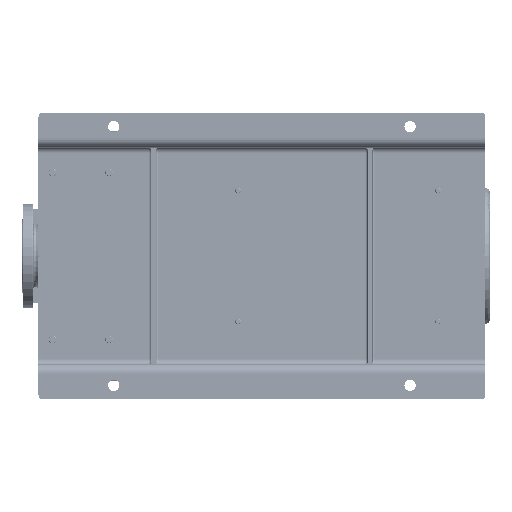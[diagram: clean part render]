
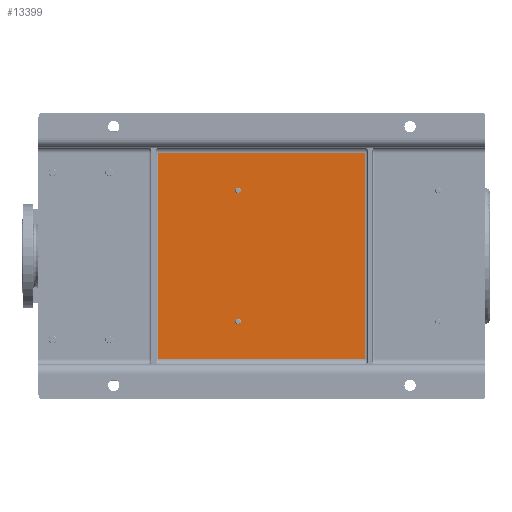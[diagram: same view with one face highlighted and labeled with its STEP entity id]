
A CAD part, front view. The second image highlights one B-rep face of the part: STEP entity #13399.
In plain terms, the highlighted planar face has unit normal (0, -1, 0).
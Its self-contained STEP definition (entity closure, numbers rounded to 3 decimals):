
#5833 = VERTEX_POINT ( 'NONE', #56796 ) ;
#5977 = EDGE_CURVE ( 'NONE', #167025, #117056, #17941, .T. ) ;
#7355 = CIRCLE ( 'NONE', #57080, 6. ) ;
#10897 = DIRECTION ( 'NONE',  ( 0., 0., -1. ) ) ;
#11101 = LINE ( 'NONE', #166468, #81732 ) ;
#12062 = VECTOR ( 'NONE', #154597, 1000. ) ;
#13399 = ADVANCED_FACE ( 'NONE', ( #164339, #223935, #45274 ), #227774, .T. ) ;
#17941 = LINE ( 'NONE', #218572, #162607 ) ;
#20562 = VERTEX_POINT ( 'NONE', #85366 ) ;
#21911 = EDGE_LOOP ( 'NONE', ( #108849, #250946, #155795, #102794 ) ) ;
#29899 = VERTEX_POINT ( 'NONE', #117404 ) ;
#30684 = VECTOR ( 'NONE', #32805, 1000. ) ;
#32805 = DIRECTION ( 'NONE',  ( 1., 0., 0. ) ) ;
#39292 = VERTEX_POINT ( 'NONE', #137901 ) ;
#42880 = DIRECTION ( 'NONE',  ( 0., 1., 0. ) ) ;
#44142 = DIRECTION ( 'NONE',  ( 0., 0., -1. ) ) ;
#45274 = FACE_OUTER_BOUND ( 'NONE', #21911, .T. ) ;
#56796 = CARTESIAN_POINT ( 'NONE',  ( 444.5, 65., -418. ) ) ;
#56918 = AXIS2_PLACEMENT_3D ( 'NONE', #186216, #85279, #142279 ) ;
#57080 = AXIS2_PLACEMENT_3D ( 'NONE', #191870, #42880, #44142 ) ;
#61735 = ORIENTED_EDGE ( 'NONE', *, *, #160504, .T. ) ;
#63179 = DIRECTION ( 'NONE',  ( 0., 0., 1. ) ) ;
#64833 = LINE ( 'NONE', #143774, #12062 ) ;
#77823 = ORIENTED_EDGE ( 'NONE', *, *, #88210, .T. ) ;
#79501 = CARTESIAN_POINT ( 'NONE',  ( 525., 65., -695. ) ) ;
#81732 = VECTOR ( 'NONE', #248068, 1000. ) ;
#85279 = DIRECTION ( 'NONE',  ( 0., 1., 0. ) ) ;
#85337 = ORIENTED_EDGE ( 'NONE', *, *, #200769, .T. ) ;
#85366 = CARTESIAN_POINT ( 'NONE',  ( 444.5, 65., -430. ) ) ;
#86667 = CARTESIAN_POINT ( 'NONE',  ( 75., 65., -950. ) ) ;
#88210 = EDGE_CURVE ( 'NONE', #20562, #5833, #153114, .T. ) ;
#102794 = ORIENTED_EDGE ( 'NONE', *, *, #195038, .T. ) ;
#108849 = ORIENTED_EDGE ( 'NONE', *, *, #222265, .T. ) ;
#114304 = LINE ( 'NONE', #131153, #30684 ) ;
#117056 = VERTEX_POINT ( 'NONE', #245487 ) ;
#117404 = CARTESIAN_POINT ( 'NONE',  ( 165.5, 65., -418. ) ) ;
#129956 = CARTESIAN_POINT ( 'NONE',  ( 165.5, 65., -424. ) ) ;
#131153 = CARTESIAN_POINT ( 'NONE',  ( 75., 65., -695. ) ) ;
#135871 = AXIS2_PLACEMENT_3D ( 'NONE', #86667, #222665, #186324 ) ;
#137901 = CARTESIAN_POINT ( 'NONE',  ( 85., 65., -695. ) ) ;
#142279 = DIRECTION ( 'NONE',  ( 0., 0., 1. ) ) ;
#143774 = CARTESIAN_POINT ( 'NONE',  ( 85., 65., -700. ) ) ;
#149299 = DIRECTION ( 'NONE',  ( 0., 1., 0. ) ) ;
#151911 = DIRECTION ( 'NONE',  ( 0., 1., 0. ) ) ;
#153114 = CIRCLE ( 'NONE', #186210, 6. ) ;
#154597 = DIRECTION ( 'NONE',  ( 0., 0., -1. ) ) ;
#155795 = ORIENTED_EDGE ( 'NONE', *, *, #5977, .T. ) ;
#156139 = CIRCLE ( 'NONE', #56918, 6. ) ;
#157094 = AXIS2_PLACEMENT_3D ( 'NONE', #129956, #151911, #10897 ) ;
#160312 = ORIENTED_EDGE ( 'NONE', *, *, #174923, .T. ) ;
#160504 = EDGE_CURVE ( 'NONE', #29899, #228877, #7355, .T. ) ;
#162607 = VECTOR ( 'NONE', #63179, 1000. ) ;
#164339 = FACE_BOUND ( 'NONE', #235969, .T. ) ;
#166468 = CARTESIAN_POINT ( 'NONE',  ( 75., 65., -255. ) ) ;
#167025 = VERTEX_POINT ( 'NONE', #79501 ) ;
#168697 = CARTESIAN_POINT ( 'NONE',  ( 444.5, 65., -424. ) ) ;
#174923 = EDGE_CURVE ( 'NONE', #5833, #20562, #156139, .T. ) ;
#179041 = VERTEX_POINT ( 'NONE', #196078 ) ;
#186210 = AXIS2_PLACEMENT_3D ( 'NONE', #168697, #149299, #190687 ) ;
#186216 = CARTESIAN_POINT ( 'NONE',  ( 444.5, 65., -424. ) ) ;
#186324 = DIRECTION ( 'NONE',  ( 0., 0., -1. ) ) ;
#188907 = EDGE_LOOP ( 'NONE', ( #160312, #77823 ) ) ;
#190687 = DIRECTION ( 'NONE',  ( 0., 0., 1. ) ) ;
#191870 = CARTESIAN_POINT ( 'NONE',  ( 165.5, 65., -424. ) ) ;
#195038 = EDGE_CURVE ( 'NONE', #117056, #179041, #11101, .T. ) ;
#196078 = CARTESIAN_POINT ( 'NONE',  ( 85., 65., -255. ) ) ;
#200769 = EDGE_CURVE ( 'NONE', #228877, #29899, #210882, .T. ) ;
#206515 = EDGE_CURVE ( 'NONE', #39292, #167025, #114304, .T. ) ;
#210882 = CIRCLE ( 'NONE', #157094, 6. ) ;
#218572 = CARTESIAN_POINT ( 'NONE',  ( 525., 65., -250. ) ) ;
#222265 = EDGE_CURVE ( 'NONE', #179041, #39292, #64833, .T. ) ;
#222665 = DIRECTION ( 'NONE',  ( 0., -1., 0. ) ) ;
#223935 = FACE_BOUND ( 'NONE', #188907, .T. ) ;
#227774 = PLANE ( 'NONE',  #135871 ) ;
#228877 = VERTEX_POINT ( 'NONE', #233804 ) ;
#233804 = CARTESIAN_POINT ( 'NONE',  ( 165.5, 65., -430. ) ) ;
#235969 = EDGE_LOOP ( 'NONE', ( #61735, #85337 ) ) ;
#245487 = CARTESIAN_POINT ( 'NONE',  ( 525., 65., -255. ) ) ;
#248068 = DIRECTION ( 'NONE',  ( -1., 0., 0. ) ) ;
#250946 = ORIENTED_EDGE ( 'NONE', *, *, #206515, .T. ) ;
